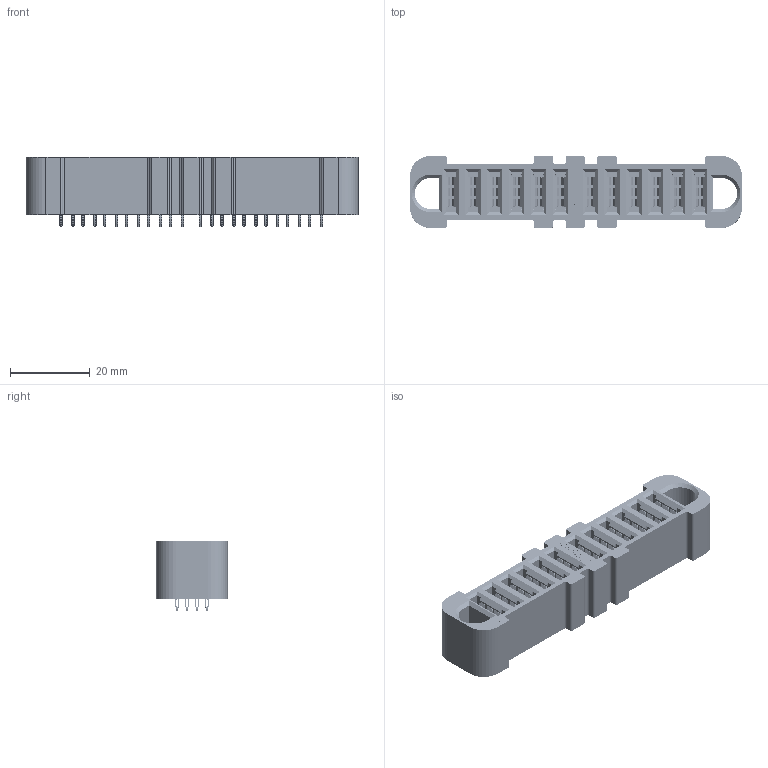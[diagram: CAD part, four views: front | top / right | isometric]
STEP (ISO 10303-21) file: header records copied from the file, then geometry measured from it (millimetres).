
FILE_DESCRIPTION(/* description */ (''),/* implementation_level */ '2;1');
FILE_NAME(/* name */ 'PDC3010F0001 石头档.stp',/* time_stamp */ '2024-12-31T15:05:45+08:00',/* author */ (''),/* organization */ (''),/* preprocessor_version */ 'ST-DEVELOPER v16.7',/* originating_system */ 'SIEMENS PLM Software NX 1946',/* authorisation */ '');
FILE_SCHEMA (('AUTOMOTIVE_DESIGN { 1 0 10303 214 3 1 1 1 }'));
Products named in the file (1): _model1
Bounding box: 83.5 x 18 x 17.38 mm (x, y, z)
Volume: 11633.9 mm3; surface area: 18821 mm2
Topology: 1 solids, 1 shells, 7884 faces, 20972 edges, 13148 vertices
Faces by surface type: plane 3206, cylinder 3123, torus 1536, extrusion 17, cone 2
Entity records: 288326 total; most frequent: DIRECTION 45235, CARTESIAN_POINT 44092, ORIENTED_EDGE 41944, EDGE_CURVE 20972, AXIS2_PLACEMENT_3D 16858, VERTEX_POINT 13148, VECTOR 11519, LINE 11502
